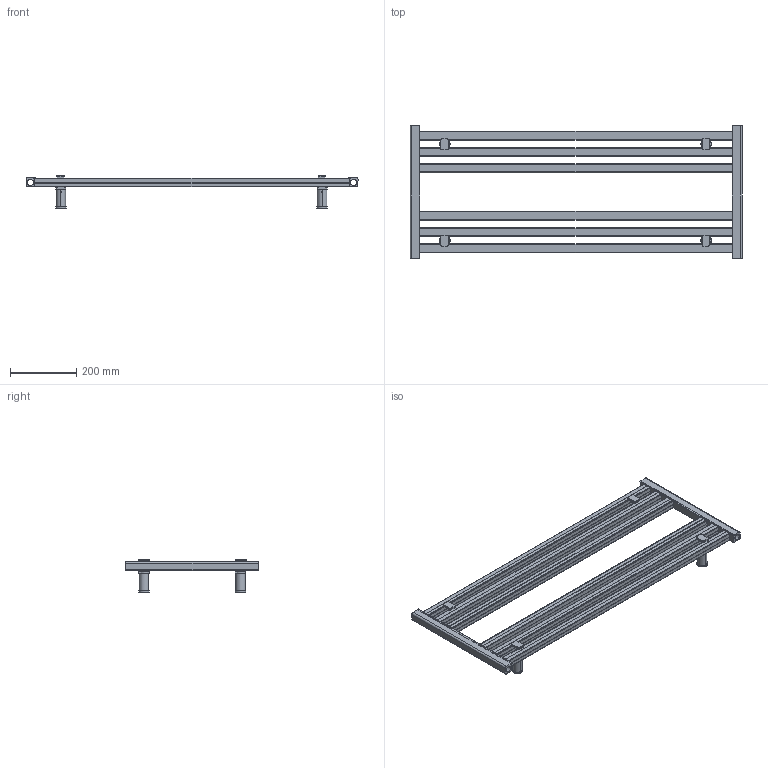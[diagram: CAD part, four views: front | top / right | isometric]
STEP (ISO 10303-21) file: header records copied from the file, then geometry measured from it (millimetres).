
FILE_DESCRIPTION (( 'STEP AP214' ), '1' );
FILE_NAME ('FAME HORIZONTAL.STEP', '2020-07-29T10:59:28', ( 'termosan' ), ( '' ), 'SwSTEP 2.0', 'SolidWorks 2009', '' );
FILE_SCHEMA (( 'AUTOMOTIVE_DESIGN' ));
Length unit declared in the file: millimetre
Products named in the file (10): FAME-950; KOL. 400-6; CAPRI; kare askýlýk parça iç gövde_2; kare askýlýk parçasý dýþ gövde_2; kare askýlýk ön parça_2; vida2_2; kare askýlýk parça2_2; kare askýlýk parcasý 1_2; FAME HORIZONTAL
Assembly tree (18 placements, depth 4):
  FAME HORIZONTAL
    CAPRI  x4
      kare askýlýk parça iç gövde_2
      kare askýlýk parçasý dýþ gövde_2
      kare askýlýk ön parça_2
        kare askýlýk parcasý 1_2
        kare askýlýk parça2_2
        vida2_2
    FAME-950  x6
    KOL. 400-6  x2
Bounding box: 1004 x 400 x 98.5 mm (x, y, z)
Volume: 1769384.6 mm3; surface area: 1862519 mm2
Topology: 28 solids, 28 shells, 648 faces, 1656 edges, 1080 vertices
Faces by surface type: plane 316, cylinder 308, torus 24
Entity records: 5810 total; most frequent: CARTESIAN_POINT 1439, DIRECTION 872, ORIENTED_EDGE 804, EDGE_CURVE 402, AXIS2_PLACEMENT_3D 319, VERTEX_POINT 262, LINE 234, VECTOR 234
